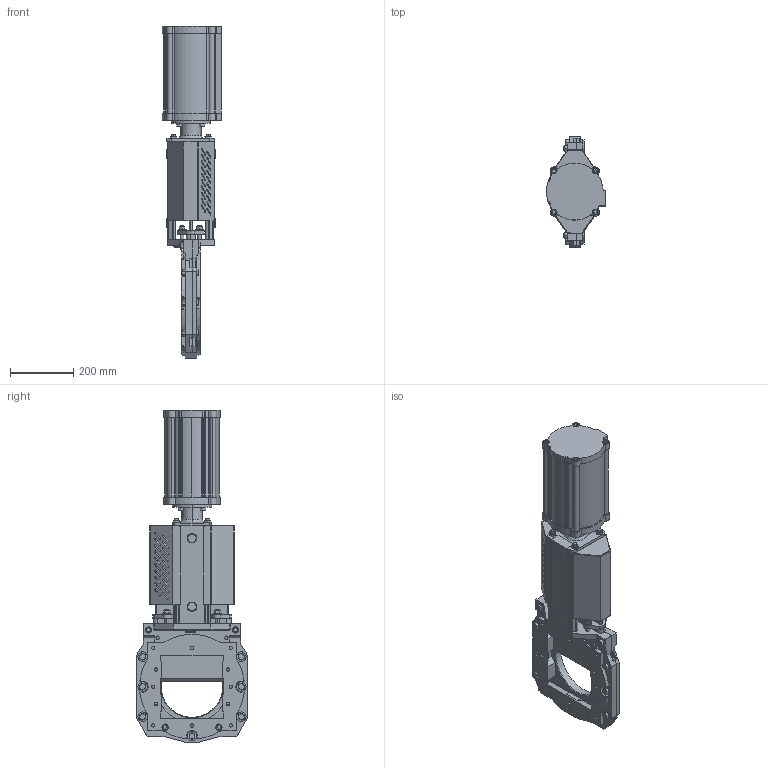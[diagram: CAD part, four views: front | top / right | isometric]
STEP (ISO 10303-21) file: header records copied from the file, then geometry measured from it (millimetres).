
FILE_DESCRIPTION(('STEP AP203'),'1');
FILE_NAME('F:/Alexander/tillfällig/RKO-DN200-EC160.stp','2013-04-08T13:34:38',(' '),(' '),'Spatial InterOp 3D',' ',' ');
FILE_SCHEMA(('CONFIG_CONTROL_DESIGN'));
Length unit declared in the file: millimetre
Products named in the file (3): 1; 2; 3
Bounding box: 187.25 x 350 x 1051 mm (x, y, z)
Volume: 9279898.8 mm3; surface area: 1897590.9 mm2
Topology: 3 solids, 30 shells, 2363 faces, 6084 edges, 3893 vertices
Faces by surface type: plane 957, cylinder 908, cone 452, torus 42, bspline 4
Entity records: 73388 total; most frequent: CARTESIAN_POINT 14878, DIRECTION 12726, ORIENTED_EDGE 12116, EDGE_CURVE 6058, AXIS2_PLACEMENT_3D 4849, VERTEX_POINT 3891, LINE 3028, VECTOR 3028
